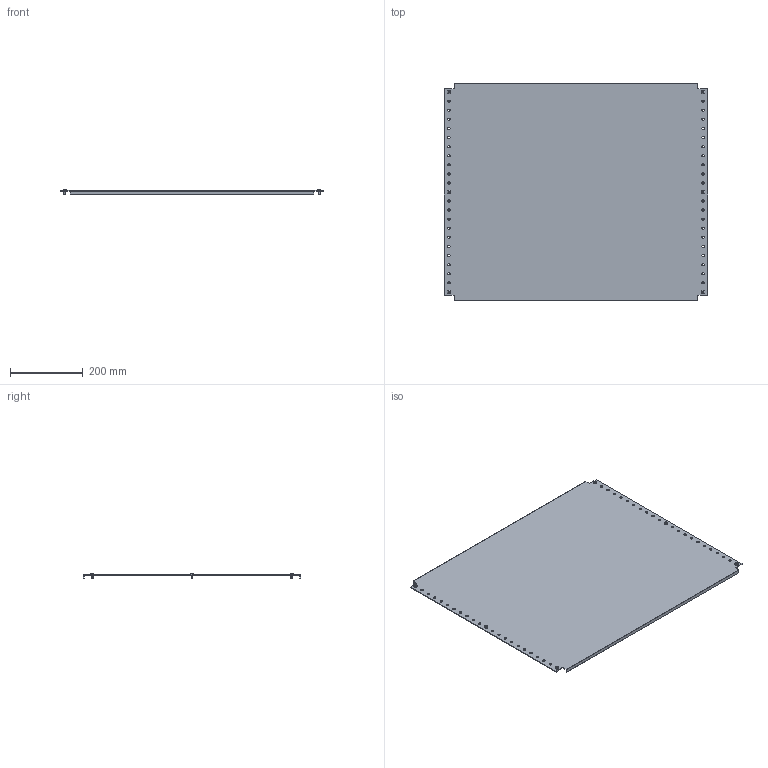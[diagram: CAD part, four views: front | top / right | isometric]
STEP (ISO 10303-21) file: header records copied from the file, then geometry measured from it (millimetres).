
FILE_DESCRIPTION (( 'STEP AP203' ), '1' );
FILE_NAME ('R6MPP06800.STEP', '2025-05-16T08:16:31', ( '' ), ( '' ), 'SwSTEP 2.0', 'SolidWorks 2022', '' );
FILE_SCHEMA (( 'CONFIG_CONTROL_DESIGN' ));
Length unit declared in the file: millimetre
Products named in the file (3): RB.3313.00.00.0 simple_-18; R6MPP06800; M5x12 DIN 7500 C Torx Zinc_stright
Assembly tree (7 placements, depth 2):
  R6MPP06800
    RB.3313.00.00.0 simple_-18
    M5x12 DIN 7500 C Torx Zinc_stright  x6
Bounding box: 725 x 598 x 15.56 mm (x, y, z)
Volume: 797051.6 mm3; surface area: 891879.2 mm2
Topology: 7 solids, 7 shells, 262 faces, 648 edges, 394 vertices
Faces by surface type: cylinder 116, plane 74, cone 24, torus 24, bspline 12, sphere 12
Entity records: 5487 total; most frequent: CARTESIAN_POINT 1019, DIRECTION 898, ORIENTED_EDGE 792, EDGE_CURVE 396, AXIS2_PLACEMENT_3D 362, VERTEX_POINT 259, EDGE_LOOP 235, CIRCLE 212
